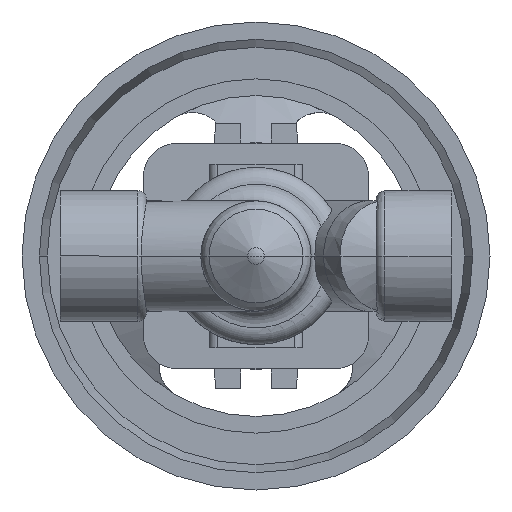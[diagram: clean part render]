
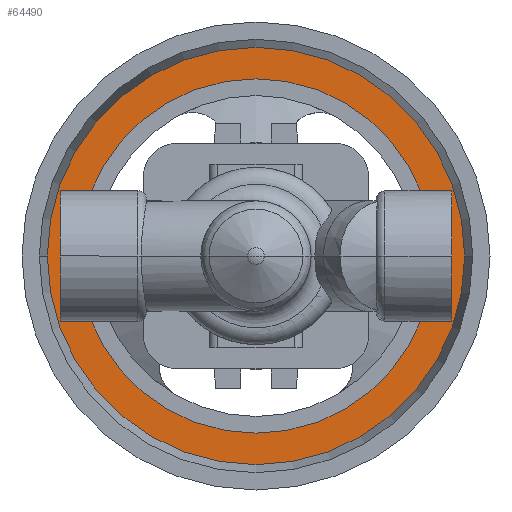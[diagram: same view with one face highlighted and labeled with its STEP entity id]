
A CAD part, front view. The second image highlights one B-rep face of the part: STEP entity #64490.
In plain terms, the highlighted planar face has unit normal (0, -1, 0).
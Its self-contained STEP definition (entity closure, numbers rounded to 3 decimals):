
#63940=CARTESIAN_POINT('',(-3.912,237.2,0.));
#63950=VERTEX_POINT('',#63940);
#64030=CARTESIAN_POINT('',(120.912,237.2,0.))
;
#64040=VERTEX_POINT('',#64030);
#64070=CARTESIAN_POINT('',(58.5,237.2,0.));
#64080=DIRECTION('',(0.,1.,0.));
#64090=DIRECTION('',(-1.,0.,0.));
#64100=AXIS2_PLACEMENT_3D('',#64070,#64080,#64090);
#64110=CIRCLE('',#64100,62.412);
#64120=EDGE_CURVE('',#63950,#64040,#64110,.T.);
#64240=CARTESIAN_POINT('',(0.794,237.2,0.)
);
#64250=DIRECTION('',(0.,-1.,0.));
#64260=DIRECTION('',(1.,0.,0.));
#64270=AXIS2_PLACEMENT_3D('',#64240,#64250,#64260);
#64280=PLANE('',#64270);
#64290=EDGE_CURVE('',#64040,#63950,#64110,.T.);
#64300=ORIENTED_EDGE('',*,*,#64290,.F.);
#64310=ORIENTED_EDGE('',*,*,#64120,.F.);
#64320=EDGE_LOOP('',(#64310,#64300));
#64330=FACE_OUTER_BOUND('',#64320,.T.);
#64340=CARTESIAN_POINT('',(58.5,237.2,0.));
#64350=DIRECTION('',(0.,1.,0.));
#64360=DIRECTION('',(-1.,0.,0.));
#64370=AXIS2_PLACEMENT_3D('',#64340,#64350,#64360);
#64380=CIRCLE('',#64370,53.);
#64390=CARTESIAN_POINT('',(111.5,237.2,0.));
#64400=VERTEX_POINT('',#64390);
#64410=CARTESIAN_POINT('',(5.5,237.2,0.));
#64420=VERTEX_POINT('',#64410);
#64430=EDGE_CURVE('',#64400,#64420,#64380,.T.);
#64440=ORIENTED_EDGE('',*,*,#64430,.T.);
#64450=EDGE_CURVE('',#64420,#64400,#64380,.T.);
#64460=ORIENTED_EDGE('',*,*,#64450,.T.);
#64470=EDGE_LOOP('',(#64460,#64440));
#64480=FACE_BOUND('',#64470,.T.);
#64490=ADVANCED_FACE('',(#64330,#64480),#64280,.T.);
